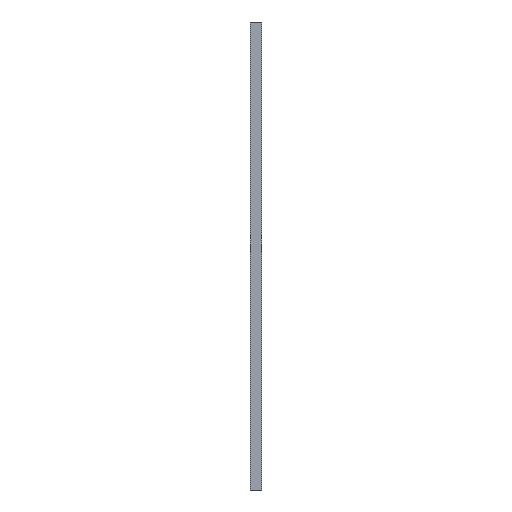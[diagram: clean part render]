
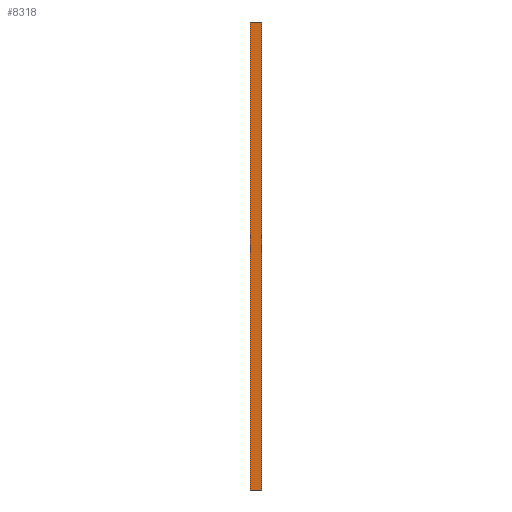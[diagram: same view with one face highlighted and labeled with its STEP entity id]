
A CAD part, left-side view. The second image highlights one B-rep face of the part: STEP entity #8318.
In plain terms, the highlighted planar face has unit normal (-1, 0, 0).
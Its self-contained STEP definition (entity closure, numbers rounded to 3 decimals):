
#115 = EDGE_CURVE ( 'NONE', #2191, #3151, #533, .T. ) ;
#402 = CARTESIAN_POINT ( 'NONE',  ( 0., 0., -1500. ) ) ;
#456 = VERTEX_POINT ( 'NONE', #3722 ) ;
#533 = LINE ( 'NONE', #4454, #5945 ) ;
#776 = DIRECTION ( 'NONE',  ( 0., 0., -1. ) ) ;
#1000 = AXIS2_PLACEMENT_3D ( 'NONE', #7327, #6690, #3525 ) ;
#1093 = EDGE_CURVE ( 'NONE', #456, #4797, #3288, .T. ) ;
#1156 = VECTOR ( 'NONE', #776, 1000. ) ;
#1216 = DIRECTION ( 'NONE',  ( 0., -1., 0. ) ) ;
#1331 = CARTESIAN_POINT ( 'NONE',  ( 0., 0., -1500. ) ) ;
#1634 = LINE ( 'NONE', #2473, #6744 ) ;
#1876 = VECTOR ( 'NONE', #5877, 1000. ) ;
#2191 = VERTEX_POINT ( 'NONE', #3807 ) ;
#2358 = PLANE ( 'NONE',  #1000 ) ;
#2473 = CARTESIAN_POINT ( 'NONE',  ( 0., 73., 1500. ) ) ;
#2680 = ORIENTED_EDGE ( 'NONE', *, *, #1093, .T. ) ;
#3151 = VERTEX_POINT ( 'NONE', #7074 ) ;
#3288 = LINE ( 'NONE', #1331, #1876 ) ;
#3446 = EDGE_CURVE ( 'NONE', #2191, #456, #1634, .T. ) ;
#3525 = DIRECTION ( 'NONE',  ( 0., 0., -1. ) ) ;
#3722 = CARTESIAN_POINT ( 'NONE',  ( 0., 73., -1500. ) ) ;
#3807 = CARTESIAN_POINT ( 'NONE',  ( 0., 73., 1500. ) ) ;
#3918 = ORIENTED_EDGE ( 'NONE', *, *, #115, .F. ) ;
#3978 = LINE ( 'NONE', #6002, #1156 ) ;
#4454 = CARTESIAN_POINT ( 'NONE',  ( 0., 0., 1500. ) ) ;
#4797 = VERTEX_POINT ( 'NONE', #402 ) ;
#5388 = ORIENTED_EDGE ( 'NONE', *, *, #3446, .T. ) ;
#5593 = FACE_OUTER_BOUND ( 'NONE', #6489, .T. ) ;
#5872 = EDGE_CURVE ( 'NONE', #3151, #4797, #3978, .T. ) ;
#5877 = DIRECTION ( 'NONE',  ( 0., -1., 0. ) ) ;
#5945 = VECTOR ( 'NONE', #1216, 1000. ) ;
#6002 = CARTESIAN_POINT ( 'NONE',  ( 0., 0., 1500. ) ) ;
#6459 = ORIENTED_EDGE ( 'NONE', *, *, #5872, .F. ) ;
#6489 = EDGE_LOOP ( 'NONE', ( #2680, #6459, #3918, #5388 ) ) ;
#6690 = DIRECTION ( 'NONE',  ( 1., 0., 0. ) ) ;
#6744 = VECTOR ( 'NONE', #8334, 1000. ) ;
#7074 = CARTESIAN_POINT ( 'NONE',  ( 0., 0., 1500. ) ) ;
#7327 = CARTESIAN_POINT ( 'NONE',  ( 0., 0., 1500. ) ) ;
#8318 = ADVANCED_FACE ( 'NONE', ( #5593 ), #2358, .F. ) ;
#8334 = DIRECTION ( 'NONE',  ( 0., 0., -1. ) ) ;
